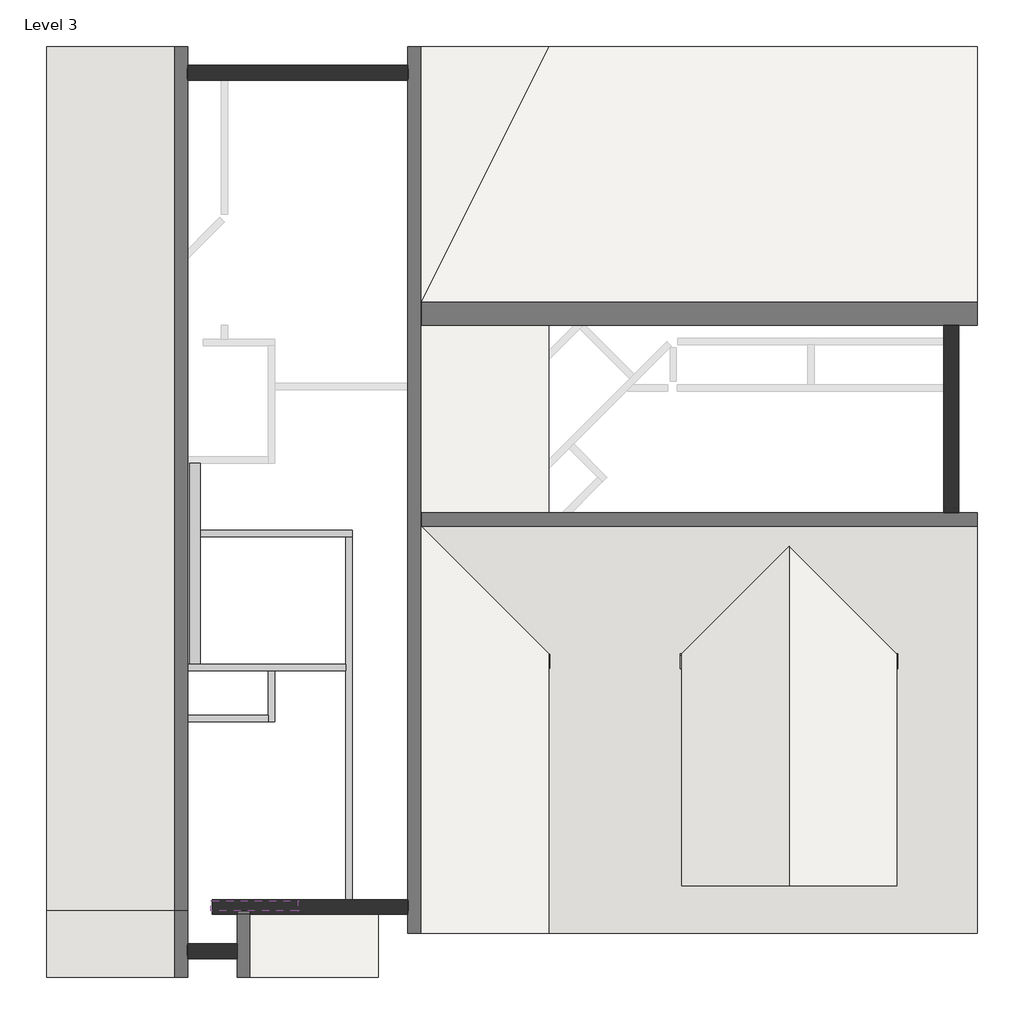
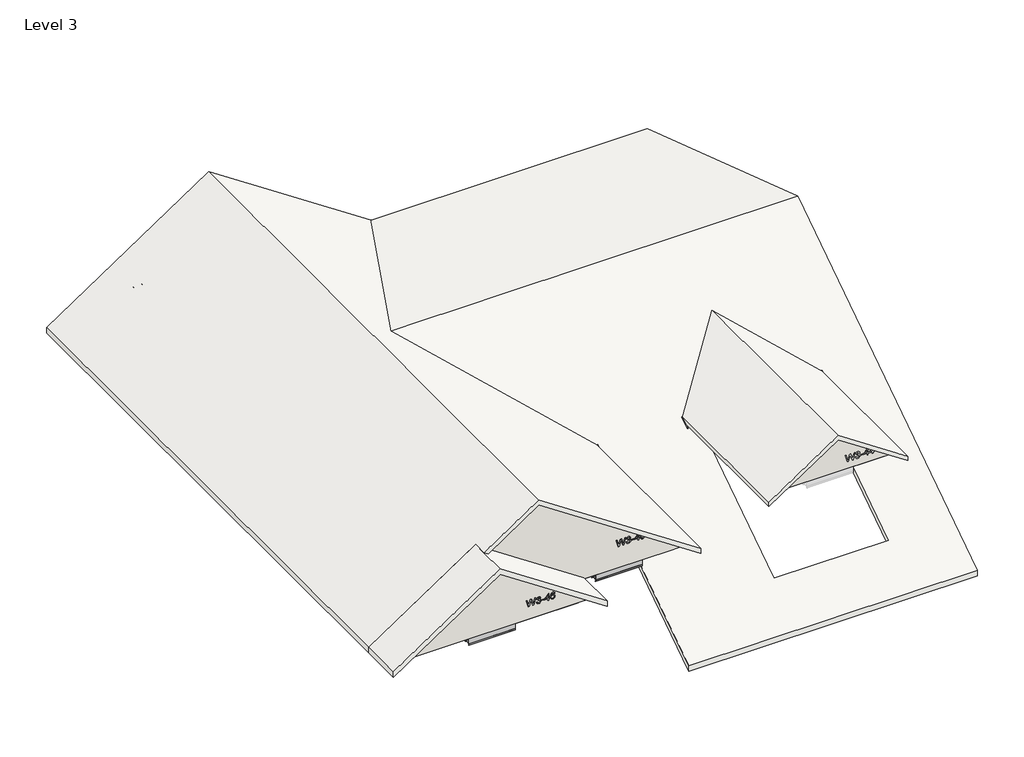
# One storey, part 1 of 2: 30 beams, 20 columns, 5 plates, 5 walls, 4 roofs, 2 fasteners.
"""IFC4 building model written with IfcOpenShell, lengths in millimetres."""

from ifc_helpers import new_model, si_unit, frame, origin, place, context, project, spatial, polyline, outline, extrude, faceted_brep, transform, mapped, element, save
from components import beam_350nf150_33_556560cf, beam_350nf150_33_0c31a938, beam_350nf150_33_c7d518e1, beam_350nf150_33_0b0e94d4, beam_350nf150_33_7c8497de, beam_350nf150_33_eeb0c6a2, beam_550nf150_33_5edfe896, beam_550nf150_33_879dc33d, beam_550nf150_33_263c1a2a, beam_550nf150_33_da6981cb, beam_550nf150_43_00d6688c, beam_550nf150_43_33ff361d, beam_550nf150_43_77635b96, beam_550nf150_43_636a8a9b, beam_550nf150_43_4f54639b, beam_550nf150_43_fce23402, beam_550nf150_43_71bb0163, beam_550nf150_43_4e6669e4, column_550nf150_43_e552a574, column_550nf150_43_0c05c255, column_550nf150_43_7f698803, column_550nf150_43_1ca68b22, column_550nf150_43_8920a52b, column_550nf150_43_ac53dd8c, column_550nf150_43_fb281cc0, column_550nf150_43_69f97449, column_550nf150_43_5652886b, column_550nf150_43_228408e8, column_550nf150_43_7b1025fd, column_550nf150_43_d98c00cb, column_550nf150_43_131e8932, column_550nf150_43_2084a76c, column_550nf150_43_d70eaa88, column_550nf150_43_58886016, column_550nf150_43_d5eec0c1, column_550nf150_43_bc900877, panellabel_cd900fcb, panellabel_f90ff313, system_panel_e7fa9c7b, system_panel_3076caaa, system_panel_68d08620, system_panel_140a6a68, system_panel_225a6f4d

model = new_model("IFC4")

# Units and contexts
model_context = context("Model", 3, world=origin())
ifc_project = project(units=[si_unit("LENGTHUNIT", "METRE", prefix="MILLI")], contexts=[model_context])

# Site, building, storey
site = spatial("IfcSite", under=ifc_project)
building = spatial("IfcBuilding", under=site)
storey = spatial("IfcBuildingStorey", under=building, Name="Level 3", Elevation=5524.5)

# Beams
placement = place(None, origin())
beam_350nf150_33_shape = beam_350nf150_33_556560cf(model_context)
element("IfcBeam", 1, ObjectType="BIMSF-SSMA-S : 350NF150-33", at=placement, inside=storey, context=model_context, shape_type="MappedRepresentation", body=[
    mapped(beam_350nf150_33_shape, transform((-11409.4913349, 5064.252221, 5508.625), x_axis=(0.0, 1.0, 0.0), y_axis=(0.0, 0.0, 1.0), z_axis=(1.0, 0.0, 0.0))),
])
beam_350nf150_33_2_shape = beam_350nf150_33_0c31a938(model_context)
element("IfcBeam", 2, ObjectType="BIMSF-SSMA-S : 350NF150-33", at=placement, inside=storey, context=model_context, shape_type="MappedRepresentation", body=[
    mapped(beam_350nf150_33_2_shape, transform((-13289.0913349, 5769.102221, 5508.625), x_axis=(1.0, 0.0, 0.0), y_axis=(0.0, 0.0, 1.0), z_axis=(0.0, -1.0, 0.0))),
])
beam_350nf150_33_3_shape = beam_350nf150_33_c7d518e1(model_context)
element("IfcBeam", 3, ObjectType="BIMSF-SSMA-S : 350NF150-33", at=placement, inside=storey, context=model_context, shape_type="MappedRepresentation", body=[
    mapped(beam_350nf150_33_3_shape, transform((-13820.9038349, 5070.602221, 5508.625), x_axis=(1.0, 0.0, 0.0), y_axis=(0.0, 0.0, 1.0), z_axis=(0.0, -1.0, 0.0))),
])
beam_350nf150_33_4_shape = beam_350nf150_33_0b0e94d4(model_context)
element("IfcBeam", 4, ObjectType="BIMSF-SSMA-S : 350NF150-33", at=placement, inside=storey, context=model_context, shape_type="MappedRepresentation", body=[
    mapped(beam_350nf150_33_4_shape, transform((-12473.1163349, 5375.402221, 5508.625), x_axis=(0.0, 1.0, 0.0), y_axis=(0.0, 0.0, 1.0), z_axis=(1.0, 0.0, 0.0))),
])
beam_350nf150_33_5_shape = beam_350nf150_33_7c8497de(model_context)
element("IfcBeam", 5, ObjectType="BIMSF-SSMA-S : 350NF150-33", at=placement, inside=storey, context=model_context, shape_type="MappedRepresentation", body=[
    mapped(beam_350nf150_33_5_shape, transform((-12411.2038349, 7610.602221, 5508.625), x_axis=(1.0, 0.0, 0.0), y_axis=(0.0, 0.0, 1.0), z_axis=(0.0, -1.0, 0.0))),
])
beam_350nf150_33_6_shape = beam_350nf150_33_eeb0c6a2(model_context)
element("IfcBeam", 6, ObjectType="BIMSF-SSMA-S : 350NF150-33", at=placement, inside=storey, context=model_context, shape_type="MappedRepresentation", body=[
    mapped(beam_350nf150_33_6_shape, transform((-8576.5652285, 7078.7104904, 5508.625), x_axis=(0.0, -1.0, 0.0), y_axis=(0.0, 0.0, 1.0), z_axis=(-1.0, 0.0, 0.0))),
])
beam_550nf150_33_shape = beam_550nf150_33_5edfe896(model_context)
element("IfcBeam", 7, ObjectType="BIMSF-SSMA-S : 550NF150-33", at=placement, inside=storey, context=model_context, shape_type="MappedRepresentation", body=[
    mapped(beam_550nf150_33_shape, transform((-13289.0913349, 1829.8095367, 5453.5003158), x_axis=(-1.0, 0.0, 0.0), y_axis=(0.0, -1.0, 0.0), z_axis=(0.0, 0.0, 1.0))),
])
element("IfcBeam", 8, ObjectType="BIMSF-SSMA-S : 550NF150-33", at=placement, inside=storey, context=model_context, shape_type="MappedRepresentation", body=[
    mapped(beam_550nf150_33_shape, transform((-13289.0913349, 1935.9949052, 5453.5003158), x_axis=(-1.0, 0.0, 0.0), y_axis=(0.0, 1.0, 0.0), z_axis=(0.0, 0.0, -1.0))),
])
element("IfcBeam", 9, ObjectType="BIMSF-SSMA-S : 550NF150-33", at=placement, inside=storey, context=model_context, shape_type="MappedRepresentation", body=[
    mapped(beam_550nf150_33_shape, transform((-13289.0913349, 1882.902221, 5367.7753158), x_axis=(-1.0, 0.0, 0.0), y_axis=(0.0, 0.0, 1.0), z_axis=(0.0, 1.0, 0.0))),
])
element("IfcBeam", 10, ObjectType="BIMSF-SSMA-S : 550NF150-33", at=placement, inside=storey, context=model_context, shape_type="MappedRepresentation", body=[
    mapped(beam_550nf150_33_shape, transform((-10234.7413349, 2439.4095367, 5453.5003158), x_axis=(-1.0, 0.0, 0.0), y_axis=(0.0, -1.0, 0.0), z_axis=(0.0, 0.0, 1.0))),
])
element("IfcBeam", 11, ObjectType="BIMSF-SSMA-S : 550NF150-33", at=placement, inside=storey, context=model_context, shape_type="MappedRepresentation", body=[
    mapped(beam_550nf150_33_shape, transform((-10234.7413349, 2545.5949052, 5453.5003158), x_axis=(-1.0, 0.0, 0.0), y_axis=(0.0, 1.0, 0.0), z_axis=(0.0, 0.0, -1.0))),
])
element("IfcBeam", 12, ObjectType="BIMSF-SSMA-S : 550NF150-33", at=placement, inside=storey, context=model_context, shape_type="MappedRepresentation", body=[
    mapped(beam_550nf150_33_shape, transform((-10234.7413349, 2492.502221, 5367.7753158), x_axis=(-1.0, 0.0, 0.0), y_axis=(0.0, 0.0, 1.0), z_axis=(0.0, 1.0, 0.0))),
])
beam_550nf150_33_2_shape = beam_550nf150_33_879dc33d(model_context)
element("IfcBeam", 13, ObjectType="BIMSF-SSMA-S : 550NF150-33", at=placement, inside=storey, context=model_context, shape_type="MappedRepresentation", body=[
    mapped(beam_550nf150_33_2_shape, transform((-15247.1840191, 7096.252221, 5453.5003158), x_axis=(0.0, 1.0, 0.0), y_axis=(-1.0, 0.0, 0.0), z_axis=(0.0, 0.0, 1.0))),
])
element("IfcBeam", 14, ObjectType="BIMSF-SSMA-S : 550NF150-33", at=placement, inside=storey, context=model_context, shape_type="MappedRepresentation", body=[
    mapped(beam_550nf150_33_2_shape, transform((-15140.9986507, 7096.252221, 5453.5003158), x_axis=(0.0, 1.0, 0.0), y_axis=(1.0, 0.0, 0.0), z_axis=(0.0, 0.0, -1.0))),
])
element("IfcBeam", 15, ObjectType="BIMSF-SSMA-S : 550NF150-33", at=placement, inside=storey, context=model_context, shape_type="MappedRepresentation", body=[
    mapped(beam_550nf150_33_2_shape, transform((-15194.0913349, 7096.252221, 5367.7753158), x_axis=(0.0, 1.0, 0.0), y_axis=(0.0, 0.0, 1.0), z_axis=(1.0, 0.0, 0.0))),
])
beam_550nf150_33_3_shape = beam_550nf150_33_263c1a2a(model_context)
element("IfcBeam", 16, ObjectType="BIMSF-SSMA-S : 550NF150-33", at=placement, inside=storey, context=model_context, shape_type="MappedRepresentation", body=[
    mapped(beam_550nf150_33_3_shape, transform((-13527.2163349, 7197.852221, 5508.625), x_axis=(0.0, 1.0, 0.0), y_axis=(0.0, 0.0, 1.0), z_axis=(1.0, 0.0, 0.0))),
])
beam_550nf150_33_4_shape = beam_550nf150_33_da6981cb(model_context)
element("IfcBeam", 17, ObjectType="BIMSF-SSMA-S : 550NF150-33", at=placement, inside=storey, context=model_context, shape_type="MappedRepresentation", body=[
    mapped(beam_550nf150_33_4_shape, transform((-9034.5913349, 7311.9569916, 5508.625), x_axis=(0.0, 1.0, 0.0), y_axis=(0.0, 0.0, 1.0), z_axis=(1.0, 0.0, 0.0))),
])
element("IfcBeam", 18, ObjectType="BIMSF-SSMA-S : 550NF150-43", at=placement, inside=storey, context=model_context, shape_type="SweptSolid", body=[
    extrude(outline(polyline([(0.0, 0.0), (0.0, -38.1), (-4.7752, -38.1), (-4.7752, -36.9503158), (-1.1496843, -36.9503158), (-1.1496843, -1.1496842), (-138.5503158, -1.1496842), (-138.5503158, -36.9503158), (-134.9248, -36.9503158), (-134.9248, -38.1), (-139.7, -38.1), (-139.7, 0.0), (0.0, 0.0)])), frame((-6600.0365855, 3214.814721, 5623.648208), z_axis=(0.8320502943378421, 0.0, 0.5547001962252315), x_axis=(0.0, 1.0, 0.0)), (0.0, 0.0, 1.0), 1490.6960383),
])
element("IfcBeam", 19, ObjectType="BIMSF-SSMA-S : 550NF150-43", at=placement, inside=storey, context=model_context, shape_type="SweptSolid", body=[
    extrude(outline(polyline([(0.0, 0.0), (139.7, 0.0), (139.7, -38.1), (134.9248, -38.1), (134.9248, -36.9503158), (138.5503158, -36.9503158), (138.5503158, -1.1496842), (1.1496843, -1.1496842), (1.1496843, -36.9503158), (4.7752, -36.9503158), (4.7752, -38.1), (0.0, -38.1), (0.0, 0.0)])), frame((-8895.8085843, 2562.352221, 5593.1212072), z_axis=(-0.8320502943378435, 0.0, 0.5547001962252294), x_axis=(0.0, -1.0, 0.0)), (0.0, 0.0, 1.0), 3866.078288),
])
element("IfcBeam", 20, ObjectType="BIMSF-SSMA-S : 550NF150-43", at=placement, inside=storey, context=model_context, shape_type="SweptSolid", body=[
    extrude(outline(polyline([(0.0, 0.0), (0.0, -38.1), (-4.7752, -38.1), (-4.7752, -36.9503158), (-1.1496843, -36.9503158), (-1.1496843, -1.1496842), (-138.5503158, -1.1496842), (-138.5503158, -36.9503158), (-134.9248, -36.9503158), (-134.9248, -38.1), (-139.7, -38.1), (-139.7, 0.0), (0.0, 0.0)])), frame((-13311.9865855, 2562.352221, 6940.3795406), z_axis=(0.8320502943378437, 0.0, 0.5547001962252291), x_axis=(0.0, 1.0, 0.0)), (0.0, 0.0, 1.0), 1437.273787),
])
element("IfcBeam", 21, ObjectType="BIMSF-SSMA-S : 550NF150-43", at=placement, inside=storey, context=model_context, shape_type="SweptSolid", body=[
    extrude(outline(polyline([(0.0, 0.0), (139.7, 0.0), (139.7, -38.1), (134.9248, -38.1), (134.9248, -36.9503158), (138.5503158, -36.9503158), (138.5503158, -1.1496842), (1.1496843, -1.1496842), (1.1496843, -36.9503158), (4.7752, -36.9503158), (4.7752, -38.1), (0.0, -38.1), (0.0, 0.0)])), frame((-11245.3085843, 1952.752221, 5593.1212072), z_axis=(-0.8320502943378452, 0.0, 0.5547001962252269), x_axis=(0.0, -1.0, 0.0)), (0.0, 0.0, 1.0), 2454.2045011),
])
element("IfcBeam", 22, ObjectType="BIMSF-SSMA-S : 550NF150-43", at=placement, inside=storey, context=model_context, shape_type="SweptSolid", body=[
    extrude(outline(polyline([(0.0, 0.0), (0.0, -38.1), (-4.7752, -38.1), (-4.7752, -36.9503158), (-1.1496843, -36.9503158), (-1.1496843, -1.1496842), (-138.5503158, -1.1496842), (-138.5503158, -36.9503158), (-134.9248, -36.9503158), (-134.9248, -38.1), (-139.7, -38.1), (-139.7, 0.0), (0.0, 0.0)])), frame((-15332.8740855, 1952.752221, 5593.1212072), z_axis=(0.8320502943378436, 0.0, 0.5547001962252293), x_axis=(0.0, 1.0, 0.0)), (0.0, 0.0, 1.0), 2454.2045011),
])
beam_550nf150_43_shape = beam_550nf150_43_00d6688c(model_context)
element("IfcBeam", 23, ObjectType="BIMSF-SSMA-S : 550NF150-43", at=placement, inside=storey, context=model_context, shape_type="MappedRepresentation", body=[
    mapped(beam_550nf150_43_shape, transform((-11384.0913349, 2117.852221, 5508.625), x_axis=(0.0, -1.0, 0.0), y_axis=(0.0, 0.0, 1.0), z_axis=(-1.0, 0.0, 0.0))),
])
beam_550nf150_43_2_shape = beam_550nf150_43_33ff361d(model_context)
element("IfcBeam", 24, ObjectType="BIMSF-SSMA-S : 550NF150-43", at=placement, inside=storey, context=model_context, shape_type="MappedRepresentation", body=[
    mapped(beam_550nf150_43_2_shape, transform((-5357.9413349, 3144.964721, 5540.375), x_axis=(-1.0000000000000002, 0.0, 0.0), y_axis=(0.0, 0.0, -1.0000000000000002), z_axis=(0.0, -1.0000000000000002, 0.0))),
])
beam_550nf150_43_3_shape = beam_550nf150_43_77635b96(model_context)
element("IfcBeam", 25, ObjectType="BIMSF-SSMA-S : 550NF150-43", at=placement, inside=storey, context=model_context, shape_type="MappedRepresentation", body=[
    mapped(beam_550nf150_43_3_shape, transform((-11103.8975849, 2492.502221, 5540.375), x_axis=(-1.0000000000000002, 0.0, 0.0), y_axis=(0.0, 0.0, -1.0000000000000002), z_axis=(0.0, -1.0000000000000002, 0.0))),
])
beam_550nf150_43_4_shape = beam_550nf150_43_636a8a9b(model_context)
element("IfcBeam", 26, ObjectType="BIMSF-SSMA-S : 550NF150-43", at=placement, inside=storey, context=model_context, shape_type="MappedRepresentation", body=[
    mapped(beam_550nf150_43_4_shape, transform((-13289.0913349, 1882.902221, 5540.375), x_axis=(-1.0000000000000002, 0.0, 0.0), y_axis=(0.0, 0.0, -1.0000000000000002), z_axis=(0.0, -1.0000000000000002, 0.0))),
])
beam_550nf150_43_5_shape = beam_550nf150_43_4f54639b(model_context)
element("IfcBeam", 27, ObjectType="BIMSF-SSMA-S : 550NF150-43", at=placement, inside=storey, context=model_context, shape_type="MappedRepresentation", body=[
    mapped(beam_550nf150_43_5_shape, transform((-15194.0913349, 4957.6168742, 5508.625), x_axis=(0.0, 1.0, 0.0), y_axis=(0.0, 0.0, 1.0), z_axis=(1.0, 0.0, 0.0))),
])
beam_550nf150_43_6_shape = beam_550nf150_43_fce23402(model_context)
element("IfcBeam", 28, ObjectType="BIMSF-SSMA-S : 550NF150-43", at=placement, inside=storey, context=model_context, shape_type="MappedRepresentation", body=[
    mapped(beam_550nf150_43_6_shape, transform((-13358.9413349, 1882.902221, 5508.625), x_axis=(-1.0, 0.0, 0.0), y_axis=(0.0, 0.0, 1.0), z_axis=(0.0, 1.0, 0.0))),
])
beam_550nf150_43_7_shape = beam_550nf150_43_71bb0163(model_context)
element("IfcBeam", 29, ObjectType="BIMSF-SSMA-S : 550NF150-43", at=placement, inside=storey, context=model_context, shape_type="MappedRepresentation", body=[
    mapped(beam_550nf150_43_7_shape, transform((-9034.5913349, 4473.702221, 5508.625), x_axis=(0.0, -1.0, 0.0), y_axis=(0.0, 0.0, 1.0), z_axis=(-1.0, 0.0, 0.0))),
])
beam_550nf150_43_8_shape = beam_550nf150_43_4e6669e4(model_context)
element("IfcBeam", 30, ObjectType="BIMSF-SSMA-S : 550NF150-43", at=placement, inside=storey, context=model_context, shape_type="MappedRepresentation", body=[
    mapped(beam_550nf150_43_8_shape, transform((-10209.3413349, 2492.502221, 5508.625), x_axis=(-1.0, 0.0, 0.0), y_axis=(0.0, 0.0, 1.0), z_axis=(0.0, 1.0, 0.0))),
])

# Columns
column_550nf150_43_shape = column_550nf150_43_e552a574(model_context)
element("IfcColumn", 31, ObjectType="BIMSF-SSMA-S-Column : 550NF150-43", at=placement, inside=storey, context=model_context, shape_type="MappedRepresentation", body=[
    mapped(column_550nf150_43_shape, transform((-14382.2912034, 1893.6393459, 0.0), x_axis=(1.0, 0.0, 0.0), y_axis=(0.0, 1.0, 0.0), z_axis=(0.0, 0.0, 1.0))),
])
column_550nf150_43_2_shape = column_550nf150_43_0c05c255(model_context)
element("IfcColumn", 32, ObjectType="BIMSF-SSMA-S-Column : 550NF150-43", at=placement, inside=storey, context=model_context, shape_type="MappedRepresentation", body=[
    mapped(column_550nf150_43_2_shape, transform((-14991.8912034, 1893.6393459, 0.0), x_axis=(1.0, 0.0, 0.0), y_axis=(0.0, 1.0, 0.0), z_axis=(0.0, 0.0, 1.0))),
])
column_550nf150_43_3_shape = column_550nf150_43_7f698803(model_context)
element("IfcColumn", 33, ObjectType="BIMSF-SSMA-S-Column : 550NF150-43", at=placement, inside=storey, context=model_context, shape_type="MappedRepresentation", body=[
    mapped(column_550nf150_43_3_shape, transform((-13772.6912034, 1893.6393459, 0.0), x_axis=(1.0, 0.0, 0.0), y_axis=(0.0, 1.0, 0.0), z_axis=(0.0, 0.0, 1.0))),
])
column_550nf150_43_4_shape = column_550nf150_43_1ca68b22(model_context)
element("IfcColumn", 34, ObjectType="BIMSF-SSMA-S-Column : 550NF150-43", at=placement, inside=storey, context=model_context, shape_type="MappedRepresentation", body=[
    mapped(column_550nf150_43_4_shape, transform((-13163.0912034, 2503.2393459, 0.0), x_axis=(1.0, 0.0, 0.0), y_axis=(0.0, 1.0, 0.0), z_axis=(0.0, 0.0, 1.0))),
])
column_550nf150_43_5_shape = column_550nf150_43_8920a52b(model_context)
element("IfcColumn", 35, ObjectType="BIMSF-SSMA-S-Column : 550NF150-43", at=placement, inside=storey, context=model_context, shape_type="MappedRepresentation", body=[
    mapped(column_550nf150_43_5_shape, transform((-12553.4912034, 2503.2393459, 0.0), x_axis=(1.0, 0.0, 0.0), y_axis=(0.0, 1.0, 0.0), z_axis=(0.0, 0.0, 1.0))),
])
column_550nf150_43_6_shape = column_550nf150_43_ac53dd8c(model_context)
element("IfcColumn", 36, ObjectType="BIMSF-SSMA-S-Column : 550NF150-43", at=placement, inside=storey, context=model_context, shape_type="MappedRepresentation", body=[
    mapped(column_550nf150_43_6_shape, transform((-11943.8912034, 2503.2393459, 0.0), x_axis=(1.0, 0.0, 0.0), y_axis=(0.0, 1.0, 0.0), z_axis=(0.0, 0.0, 1.0))),
])
column_550nf150_43_7_shape = column_550nf150_43_fb281cc0(model_context)
element("IfcColumn", 37, ObjectType="BIMSF-SSMA-S-Column : 550NF150-43", at=placement, inside=storey, context=model_context, shape_type="MappedRepresentation", body=[
    mapped(column_550nf150_43_7_shape, transform((-11334.2912034, 2503.2393459, 0.0), x_axis=(1.0, 0.0, 0.0), y_axis=(0.0, 1.0, 0.0), z_axis=(0.0, 0.0, 1.0))),
])
column_550nf150_43_8_shape = column_550nf150_43_69f97449(model_context)
element("IfcColumn", 38, ObjectType="BIMSF-SSMA-S-Column : 550NF150-43", at=placement, inside=storey, context=model_context, shape_type="MappedRepresentation", body=[
    mapped(column_550nf150_43_8_shape, transform((-10724.6912034, 2503.2393459, 0.0), x_axis=(1.0, 0.0, 0.0), y_axis=(0.0, 1.0, 0.0), z_axis=(0.0, 0.0, 1.0))),
])
column_550nf150_43_9_shape = column_550nf150_43_5652886b(model_context)
element("IfcColumn", 39, ObjectType="BIMSF-SSMA-S-Column : 550NF150-43", at=placement, inside=storey, context=model_context, shape_type="MappedRepresentation", body=[
    mapped(column_550nf150_43_9_shape, transform((-10115.0912034, 2503.2393459, 0.0), x_axis=(1.0, 0.0, 0.0), y_axis=(0.0, 1.0, 0.0), z_axis=(0.0, 0.0, 1.0))),
])
column_550nf150_43_10_shape = column_550nf150_43_228408e8(model_context)
element("IfcColumn", 40, ObjectType="BIMSF-SSMA-S-Column : 550NF150-43", at=placement, inside=storey, context=model_context, shape_type="MappedRepresentation", body=[
    mapped(column_550nf150_43_10_shape, transform((-9505.4912034, 2503.2393459, 0.0), x_axis=(1.0, 0.0, 0.0), y_axis=(0.0, 1.0, 0.0), z_axis=(0.0, 0.0, 1.0))),
])
column_550nf150_43_11_shape = column_550nf150_43_7b1025fd(model_context)
element("IfcColumn", 41, ObjectType="BIMSF-SSMA-S-Column : 550NF150-43", at=placement, inside=storey, context=model_context, shape_type="MappedRepresentation", body=[
    mapped(column_550nf150_43_11_shape, transform((-6565.1435471, 3155.7018459, 0.0), x_axis=(1.0, 0.0, 0.0), y_axis=(0.0, 1.0, 0.0), z_axis=(0.0, 0.0, 1.0))),
])
column_550nf150_43_12_shape = column_550nf150_43_d98c00cb(model_context)
element("IfcColumn", 42, ObjectType="BIMSF-SSMA-S-Column : 550NF150-43", at=placement, inside=storey, context=model_context, shape_type="MappedRepresentation", body=[
    mapped(column_550nf150_43_12_shape, transform((-6457.4912034, 3155.7018459, 0.0), x_axis=(1.0, 0.0, 0.0), y_axis=(0.0, 1.0, 0.0), z_axis=(0.0, 0.0, 1.0))),
])
column_550nf150_43_13_shape = column_550nf150_43_131e8932(model_context)
element("IfcColumn", 43, ObjectType="BIMSF-SSMA-S-Column : 550NF150-43", at=placement, inside=storey, context=model_context, shape_type="MappedRepresentation", body=[
    mapped(column_550nf150_43_13_shape, transform((-8930.7016226, 2481.765096, 0.0), x_axis=(-1.0, 0.0, 0.0), y_axis=(0.0, -1.0, 0.0), z_axis=(0.0, 0.0, 1.0))),
])
element("IfcColumn", 44, ObjectType="BIMSF-SSMA-S-Column : 550NF150-43", at=placement, inside=storey, context=model_context, shape_type="MappedRepresentation", body=[
    mapped(column_550nf150_43_13_shape, transform((-11280.2016226, 1872.165096, 0.0), x_axis=(-1.0, 0.0, 0.0), y_axis=(0.0, -1.0, 0.0), z_axis=(0.0, 0.0, 1.0))),
])
element("IfcColumn", 45, ObjectType="BIMSF-SSMA-S-Column : 550NF150-43", at=placement, inside=storey, context=model_context, shape_type="MappedRepresentation", body=[
    mapped(column_550nf150_43_13_shape, transform((-15297.9810471, 1893.6393459, 0.0), x_axis=(1.0, 0.0, 0.0), y_axis=(0.0, 1.0, 0.0), z_axis=(0.0, 0.0, 1.0))),
])
column_550nf150_43_14_shape = column_550nf150_43_2084a76c(model_context)
element("IfcColumn", 46, ObjectType="BIMSF-SSMA-S-Column : 550NF150-43", at=placement, inside=storey, context=model_context, shape_type="MappedRepresentation", body=[
    mapped(column_550nf150_43_14_shape, transform((-13277.0935471, 2503.2393459, 0.0), x_axis=(1.0, 0.0, 0.0), y_axis=(0.0, 1.0, 0.0), z_axis=(0.0, 0.0, 1.0))),
])
column_550nf150_43_15_shape = column_550nf150_43_d70eaa88(model_context)
element("IfcColumn", 47, ObjectType="BIMSF-SSMA-S-Column : 550NF150-43", at=placement, inside=storey, context=model_context, shape_type="MappedRepresentation", body=[
    mapped(column_550nf150_43_15_shape, transform((-13163.0912034, 1893.6393459, 0.0), x_axis=(1.0, 0.0, 0.0), y_axis=(0.0, 1.0, 0.0), z_axis=(0.0, 0.0, 1.0))),
])
column_550nf150_43_16_shape = column_550nf150_43_58886016(model_context)
element("IfcColumn", 48, ObjectType="BIMSF-SSMA-S-Column : 550NF150-43", at=placement, inside=storey, context=model_context, shape_type="MappedRepresentation", body=[
    mapped(column_550nf150_43_16_shape, transform((-12553.4912034, 1893.6393459, 0.0), x_axis=(1.0, 0.0, 0.0), y_axis=(0.0, 1.0, 0.0), z_axis=(0.0, 0.0, 1.0))),
])
column_550nf150_43_17_shape = column_550nf150_43_d5eec0c1(model_context)
element("IfcColumn", 49, ObjectType="BIMSF-SSMA-S-Column : 550NF150-43", at=placement, inside=storey, context=model_context, shape_type="MappedRepresentation", body=[
    mapped(column_550nf150_43_17_shape, transform((-11943.8912034, 1893.6393459, 0.0), x_axis=(1.0, 0.0, 0.0), y_axis=(0.0, 1.0, 0.0), z_axis=(0.0, 0.0, 1.0))),
])
column_550nf150_43_18_shape = column_550nf150_43_bc900877(model_context)
element("IfcColumn", 50, ObjectType="BIMSF-SSMA-S-Column : 550NF150-43", at=placement, inside=storey, context=model_context, shape_type="MappedRepresentation", body=[
    mapped(column_550nf150_43_18_shape, transform((-11334.2912034, 1893.6393459, 0.0), x_axis=(1.0, 0.0, 0.0), y_axis=(0.0, 1.0, 0.0), z_axis=(0.0, 0.0, 1.0))),
])

# Fasteners
panellabel_shape = panellabel_cd900fcb(model_context)
element("IfcFastener", 51, ObjectType="PanelLabel : Miranda", at=placement, inside=storey, context=model_context, shape_type="MappedRepresentation", body=[
    mapped(panellabel_shape, transform((-10011.3007099, 2477.420971, 4690.0120816), x_axis=(-1.0, 0.0, 0.0), y_axis=(0.0, -1.0, 0.0), z_axis=(0.0, 0.0, 1.0))),
])
panellabel_2_shape = panellabel_f90ff313(model_context)
element("IfcFastener", 52, ObjectType="PanelLabel : Miranda", at=placement, inside=storey, context=model_context, shape_type="MappedRepresentation", body=[
    mapped(panellabel_2_shape, transform((-12278.6475849, 1867.820971, 4494.2204149), x_axis=(-1.0, 0.0, 0.0), y_axis=(0.0, -1.0, 0.0), z_axis=(0.0, 0.0, 1.0))),
])

# Plates
system_panel_shape = system_panel_e7fa9c7b(model_context)
element("IfcPlate", 53, ObjectType="System Panel : 1/2\" Plywood & 1\" Rigid Ins.", at=placement, inside=storey, context=model_context, shape_type="MappedRepresentation", body=[
    mapped(system_panel_shape, transform((-12114.3413349, 14024.102221, 5524.5), x_axis=(-1.0, 0.0, 0.0), y_axis=(0.0, -1.0, 0.0), z_axis=(0.0, 0.0, 1.0))),
])
system_panel_2_shape = system_panel_3076caaa(model_context)
element("IfcPlate", 54, ObjectType="System Panel : 1/2\" Plywood & 1\" Rigid Ins.", at=placement, inside=storey, context=model_context, shape_type="MappedRepresentation", body=[
    mapped(system_panel_2_shape, transform((-3052.8913349, 10054.7218592, 5524.5), x_axis=(0.0, 1.0, 0.0), y_axis=(-1.0, 0.0, 0.0), z_axis=(0.0, 0.0, 1.0))),
])
system_panel_3_shape = system_panel_68d08620(model_context)
element("IfcPlate", 55, ObjectType="System Panel : 1/2\" Plywood & 1\" Rigid Ins.", at=placement, inside=storey, context=model_context, shape_type="MappedRepresentation", body=[
    mapped(system_panel_3_shape, transform((-5357.9413349, 3056.064721, 5524.5), x_axis=(1.0, 0.0, 0.0), y_axis=(0.0, 1.0, 0.0), z_axis=(0.0, 0.0, 1.0))),
])
system_panel_4_shape = system_panel_140a6a68(model_context)
element("IfcPlate", 56, ObjectType="System Panel : 1/2\" Plywood & 1\" Rigid Ins.", at=placement, inside=storey, context=model_context, shape_type="MappedRepresentation", body=[
    mapped(system_panel_4_shape, transform((-11103.8975849, 2403.602221, 5524.5), x_axis=(1.0, 0.0, 0.0), y_axis=(0.0, 1.0, 0.0), z_axis=(0.0, 0.0, 1.0))),
])
system_panel_5_shape = system_panel_225a6f4d(model_context)
element("IfcPlate", 57, ObjectType="System Panel : 1/2\" Plywood & 1\" Rigid Ins.", at=placement, inside=storey, context=model_context, shape_type="MappedRepresentation", body=[
    mapped(system_panel_5_shape, transform((-13289.0913349, 1794.002221, 5524.5), x_axis=(1.0, 0.0, 0.0), y_axis=(0.0, 1.0, 0.0), z_axis=(0.0, 0.0, 1.0))),
])

# Roofs
element("IfcRoof", 58, ObjectType="Truss_350 Outlooker", at=placement, inside=storey, context=model_context, shape_type="Brep", body=[
    faceted_brep([(-12114.3413349, 14309.852221, 7734.9938325), (-8659.9413349, 14309.852221, 5432.0604992), (-8659.9413349, 2117.852221, 5432.0604992), (-12114.3413349, 2117.852221, 7734.9938325), (-13197.5103325, 2117.852221, 7012.8811675), (-13197.5103325, 2422.652221, 7012.8811675), (-13289.0913349, 2422.652221, 6951.8271659), (-15568.7413349, 2422.652221, 5432.0604992), (-15568.7413349, 14309.852221, 5432.0604992), (-8659.9413349, 14309.852221, 5554.1685024), (-12114.3413349, 14309.852221, 7857.1018357), (-12114.3413349, 2117.852221, 7857.1018357), (-8659.9413349, 2117.852221, 5554.1685024), (-15568.7413349, 14309.852221, 5554.1685024), (-15568.7413349, 2422.652221, 5554.1685024), (-13289.0913349, 2422.652221, 7073.9351691), (-13289.0913349, 2117.852221, 7073.9351691)], [[[0, 1, 2, 3]], [[0, 3, 4, 5, 6, 7, 8]], [[9, 10, 11, 12]], [[11, 10, 13, 14, 15, 16]], [[13, 8, 7, 14]], [[9, 12, 2, 1]], [[1, 0, 8, 13, 10, 9]], [[3, 2, 12, 11, 16, 4]], [[15, 5, 4, 16]], [[5, 15, 14, 7, 6]]]),
])
element("IfcRoof", 59, ObjectType="Truss_350 Outlooker", at=placement, inside=storey, context=model_context, shape_type="Brep", body=[
    faceted_brep([(-2767.1413349, 8758.364721, 7297.5685323), (-2767.1413349, 2117.852221, 2870.560199), (-8918.7038349, 2117.852221, 2870.560199), (-8918.7038349, 5960.1026713, 5432.0604992), (-8659.9413349, 5960.1026713, 5432.0604992), (-8659.9413349, 5933.7146761, 5414.4685024), (-8640.8913349, 5933.7146761, 5414.4685024), (-8640.8913349, 6143.2646761, 5554.1685024), (-8659.9413349, 6143.2646761, 5554.1685024), (-11275.0413797, 8758.364721, 7297.5685323), (-6577.1413349, 3029.077221, 3478.0435323), (-4138.7413349, 3029.077221, 3478.0435323), (-4138.7413349, 5813.3322462, 5334.2135491), (-6577.1413349, 5813.3322462, 5334.2135491), (-3860.9288349, 5960.1026713, 5432.0604992), (-3879.9788349, 5960.1026713, 5432.0604992), (-3879.9788349, 5933.7146761, 5414.4685024), (-3860.9288349, 5933.7146761, 5414.4685024), (-6835.9038349, 5960.1026713, 5432.0604992), (-6854.9538349, 5960.1026713, 5432.0604992), (-6854.9538349, 5933.7146761, 5414.4685024), (-6835.9038349, 5933.7146761, 5414.4685024), (-8659.9413349, 13988.5648107, 5554.1685024), (-8640.8913349, 13988.5648107, 5554.1685024), (-8640.8913349, 14309.852221, 5447.072699), (-2767.1413349, 14309.852221, 5447.072699), (-2767.1413349, 2117.852221, 2992.6682022), (-2767.1413349, 8743.3525212, 7409.6684023), (-11443.1911848, 8743.3525212, 7409.6684023), (-8659.9413349, 5960.1026713, 5554.1685024), (-8640.8913349, 5960.1026713, 5554.1685024), (-8640.8913349, 5750.5526713, 5414.4685024), (-8659.9413349, 5750.5526713, 5414.4685024), (-8659.9413349, 5776.9406665, 5432.0604992), (-8918.7038349, 5776.9406665, 5432.0604992), (-8918.7038349, 2117.852221, 2992.6682022), (-4138.7413349, 3029.077221, 3600.1515355), (-6577.1413349, 3029.077221, 3600.1515355), (-6577.1413349, 5813.3322462, 5456.3215523), (-4138.7413349, 5813.3322462, 5456.3215523), (-3879.9788349, 5960.1026713, 5554.1685024), (-3860.9288349, 5960.1026713, 5554.1685024), (-3860.9288349, 5750.5526713, 5414.4685024), (-3879.9788349, 5750.5526713, 5414.4685024), (-6854.9538349, 5960.1026713, 5554.1685024), (-6835.9038349, 5960.1026713, 5554.1685024), (-6835.9038349, 5750.5526713, 5414.4685024), (-6854.9538349, 5750.5526713, 5414.4685024), (-2767.1413349, 14309.852221, 5554.1685024), (-8640.8913349, 14309.852221, 5554.1685024), (-8659.9413349, 14309.852221, 5554.1685024)], [[[0, 1, 2, 3, 4, 5, 6, 7, 8, 9], [10, 11, 12, 13], [14, 15, 16, 17], [18, 19, 20, 21]], [[0, 9, 22, 23, 24, 25]], [[26, 27, 28, 29, 30, 31, 32, 33, 34, 35], [36, 37, 38, 39], [40, 41, 42, 43], [44, 45, 46, 47]], [[28, 27, 48, 49, 50]], [[48, 25, 24, 49]], [[26, 35, 2, 1]], [[1, 0, 25, 48, 27, 26]], [[2, 35, 34, 3]], [[10, 37, 36, 11]], [[11, 36, 39, 12]], [[12, 39, 38, 13]], [[37, 10, 13, 38]], [[28, 50, 22, 9, 8, 29]], [[3, 34, 33, 4]], [[40, 15, 14, 41]], [[15, 40, 43, 16]], [[16, 43, 42, 17]], [[41, 14, 17, 42]], [[44, 19, 18, 45]], [[45, 18, 21, 46]], [[46, 21, 20, 47]], [[19, 44, 47, 20]], [[49, 23, 22, 50]], [[7, 30, 29, 8]], [[32, 5, 4, 33]], [[5, 32, 31, 6]], [[23, 49, 24]], [[30, 7, 6, 31]]]),
])
element("IfcRoof", 60, ObjectType="Truss_350 Outlooker", at=placement, inside=storey, context=model_context, shape_type="Brep", body=[
    faceted_brep([(-13289.0913349, 1508.252221, 6951.8271659), (-15568.7413349, 1508.252221, 5432.0604992), (-15568.7413349, 2422.652221, 5432.0604992), (-13289.0913349, 2422.652221, 6951.8271659), (-11009.4413349, 2422.652221, 5432.0604992), (-11009.4413349, 1508.252221, 5432.0604992), (-11148.1005861, 2422.652221, 5524.5), (-15568.7413349, 1508.252221, 5554.1685024), (-13289.0913349, 1508.252221, 7073.9351691), (-13289.0913349, 2117.852221, 7073.9351691), (-13289.0913349, 2422.652221, 7073.9351691), (-15568.7413349, 2422.652221, 5554.1685024), (-11009.4413349, 1508.252221, 5554.1685024), (-11009.4413349, 2376.614721, 5554.1685024), (-11009.4413349, 2422.652221, 5554.1685024), (-13197.5103325, 2422.652221, 7012.8811675), (-11009.4413349, 2422.652221, 5524.5)], [[[0, 1, 2, 3]], [[4, 5, 0, 3, 6]], [[7, 8, 9, 10, 11]], [[12, 13, 14, 15, 10, 9, 8]], [[4, 16, 14, 13, 12, 5]], [[1, 7, 11, 2]], [[12, 8, 7, 1, 0, 5]], [[11, 10, 15, 14, 16, 4, 6, 3, 2]]]),
])
element("IfcRoof", 61, ObjectType="Truss_250TC_01", at=placement, inside=storey, context=model_context, shape_type="Brep", body=[
    faceted_brep([(-5357.9413349, 2770.314721, 6447.8958333), (-6835.9038349, 2770.314721, 5462.5875), (-6835.9038349, 5822.7311677, 5462.5875), (-5357.9413349, 7300.6936677, 6447.8958333), (-3879.9788349, 5822.7311677, 5462.5875), (-3879.9788349, 2770.314721, 5462.5875), (-6835.9038349, 2770.314721, 5554.1685024), (-5357.9413349, 2770.314721, 6539.4768357), (-5357.9413349, 7438.0651713, 6539.4768357), (-6835.9038349, 5960.1026713, 5554.1685024), (-3879.9788349, 2770.314721, 5554.1685024), (-3879.9788349, 5960.1026713, 5554.1685024)], [[[0, 1, 2, 3]], [[4, 5, 0, 3]], [[6, 7, 8, 9]], [[10, 11, 8, 7]], [[4, 11, 10, 5]], [[1, 6, 9, 2]], [[10, 7, 6, 1, 0, 5]], [[9, 8, 11, 4, 3, 2]]]),
])

# Walls
element("IfcWall", 62, ObjectType="EXT_550_Siding_01", at=placement, inside=storey, context=model_context, shape_type="Brep", body=[
    faceted_brep([(-3227.5163349, 14005.052221, 5524.5), (-3227.5163349, 13849.477221, 5524.5), (-3227.5163349, 6104.3914974, 5524.5), (-3227.5163349, 6104.3914974, 5528.2530499), (-3227.5163349, 8758.364721, 7297.5685323), (-3227.5163349, 14005.052221, 5548.672699), (-3025.9038349, 14005.052221, 5524.5), (-3025.9038349, 14005.052221, 5548.672699), (-3025.9038349, 8758.364721, 7297.5685323), (-3025.9038349, 6104.3914974, 5528.2530499), (-3025.9038349, 6104.3914974, 5524.5), (-3025.9038349, 13849.477221, 5524.5), (-3071.9413349, 6104.3914974, 5524.5), (-3071.9413349, 14005.052221, 5524.5)], [[[0, 1, 2, 3, 4, 5]], [[6, 7, 8, 9, 10, 11]], [[3, 2, 12, 10, 9]], [[0, 5, 7, 6, 13]], [[2, 1, 0, 13, 12]], [[13, 6, 11, 10, 12]], [[5, 4, 8, 7]], [[4, 3, 9, 8]]]),
])
element("IfcWall", 63, ObjectType="EXT_550_Siding_01", at=placement, inside=storey, context=model_context, shape_type="Brep", body=[
    faceted_brep([(-11268.2038349, 1968.627221, 5524.5), (-11469.8163349, 1968.627221, 5524.5), (-15309.9788349, 1968.627221, 5524.5), (-15309.9788349, 1968.627221, 5604.5688325), (-13289.0913349, 1968.627221, 6951.8271659), (-11268.2038349, 1968.627221, 5604.5688325), (-11268.2038349, 1767.014721, 5524.5), (-11268.2038349, 1767.014721, 5604.5688325), (-13289.0913349, 1767.014721, 6951.8271659), (-15309.9788349, 1767.014721, 5604.5688325), (-15309.9788349, 1767.014721, 5524.5), (-11469.8163349, 1767.014721, 5524.5), (-15309.9788349, 1813.052221, 5524.5), (-11268.2038349, 1813.052221, 5524.5)], [[[0, 1, 2, 3, 4, 5]], [[6, 7, 8, 9, 10, 11]], [[3, 2, 12, 10, 9]], [[0, 5, 7, 6, 13]], [[2, 1, 0, 13, 12]], [[13, 6, 11, 10, 12]], [[5, 4, 8, 7]], [[4, 3, 9, 8]]]),
])
element("IfcWall", 64, ObjectType="EXT_550_Siding_01", at=placement, inside=storey, context=model_context, shape_type="Brep", body=[
    faceted_brep([(-8918.7038349, 2578.227221, 5524.5), (-13289.0913349, 2578.227221, 5524.5), (-13289.0913349, 2578.227221, 6951.8271659), (-12114.3413349, 2578.227221, 7734.9938325), (-8918.7038349, 2578.227221, 5604.5688325), (-13289.0913349, 2376.614721, 6951.8271659), (-13289.0913349, 2376.614721, 5524.5), (-11148.1005861, 2376.614721, 5524.5), (-8918.7038349, 2376.614721, 5524.5), (-8918.7038349, 2376.614721, 5604.5688325), (-12114.3413349, 2376.614721, 7734.9938325), (-13197.5103325, 2376.614721, 7012.8811675), (-11009.4413349, 2376.614721, 5554.1685024), (-11009.4413349, 2376.614721, 5524.5), (-9120.3163349, 2376.614721, 5524.5), (-13289.0913349, 2422.652221, 5524.5), (-13289.0913349, 2422.652221, 6951.8271659), (-8918.7038349, 2422.652221, 5524.5), (-11009.4413349, 2422.652221, 5524.5), (-11148.1005861, 2422.652221, 5524.5), (-13197.5103325, 2422.652221, 7012.8811675), (-11009.4413349, 2422.652221, 5554.1685024)], [[[0, 1, 2, 3, 4]], [[5, 6, 7]], [[8, 9, 10, 11, 12, 13, 14]], [[2, 1, 15, 6, 5, 16]], [[0, 4, 9, 8, 17]], [[1, 0, 17, 18, 19, 15]], [[17, 8, 14, 13, 18]], [[6, 15, 19, 7]], [[9, 4, 3, 10]], [[3, 2, 16, 20, 11, 10]], [[19, 16, 5, 7]], [[20, 21, 12, 11]], [[16, 19, 18, 21, 20]], [[21, 18, 13, 12]]]),
])
element("IfcWall", 65, ObjectType="EXT_550_Siding_01", at=placement, inside=storey, context=model_context, shape_type="Brep", body=[
    faceted_brep([(-4138.7413349, 3230.689721, 5524.5), (-6577.1413349, 3230.689721, 5524.5), (-6577.1413349, 3230.689721, 5635.0958333), (-5357.9413349, 3230.689721, 6447.8958333), (-4138.7413349, 3230.689721, 5635.0958333), (-4138.7413349, 3029.077221, 5524.5), (-4138.7413349, 3029.077221, 5635.0958333), (-5357.9413349, 3029.077221, 6447.8958333), (-6577.1413349, 3029.077221, 5635.0958333), (-6577.1413349, 3029.077221, 5524.5), (-6375.5288349, 3029.077221, 5524.5), (-4340.3538349, 3029.077221, 5524.5), (-6577.1413349, 3075.114721, 5524.5), (-4138.7413349, 3075.114721, 5524.5)], [[[0, 1, 2, 3, 4]], [[5, 6, 7, 8, 9, 10, 11]], [[2, 1, 12, 9, 8]], [[0, 4, 6, 5, 13]], [[4, 3, 7, 6]], [[3, 2, 8, 7]], [[1, 0, 13, 12]], [[13, 5, 11, 10, 9, 12]]]),
])
element("IfcWall", 66, ObjectType="EXT_550_Siding_01", at=placement, inside=storey, context=model_context, shape_type="Brep", body=[
    faceted_brep([(-15263.9413349, 13849.477221, 5524.5), (-9167.9413349, 13849.477221, 5524.5), (-8964.7413349, 13849.477221, 5524.5), (-8964.7413349, 13849.477221, 5635.2604992), (-12114.3413349, 13849.477221, 7734.9938325), (-15263.9413349, 13849.477221, 5635.2604992), (-15263.9413349, 14051.089721, 5524.5), (-15263.9413349, 14051.089721, 5635.2604992), (-12114.3413349, 14051.089721, 7734.9938325), (-8964.7413349, 14051.089721, 5635.2604992), (-8964.7413349, 14051.089721, 5524.5), (-9167.9413349, 14051.089721, 5524.5), (-8964.7413349, 14005.052221, 5524.5), (-15263.9413349, 14005.052221, 5524.5)], [[[0, 1, 2, 3, 4, 5]], [[6, 7, 8, 9, 10, 11]], [[3, 2, 12, 10, 9]], [[0, 5, 7, 6, 13]], [[2, 1, 0, 13, 12]], [[13, 6, 11, 10, 12]], [[5, 4, 8, 7]], [[4, 3, 9, 8]]]),
])

save(model, "model.ifc")
